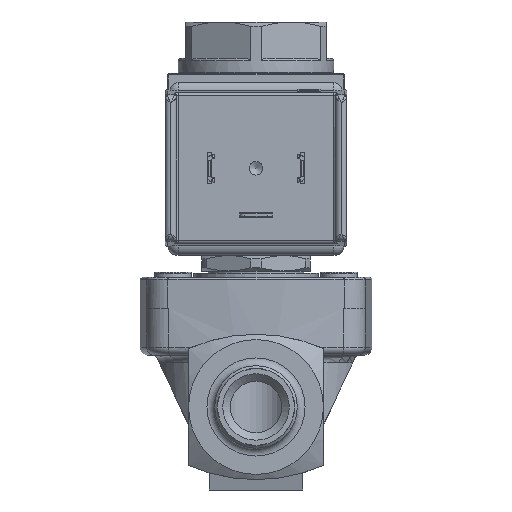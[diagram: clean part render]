
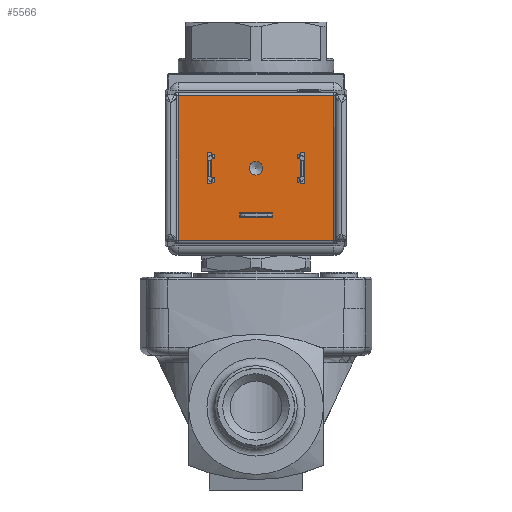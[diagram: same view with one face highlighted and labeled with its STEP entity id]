
A CAD part, front view. The second image highlights one B-rep face of the part: STEP entity #5566.
In plain terms, the highlighted planar face has unit normal (0, -1, 0).
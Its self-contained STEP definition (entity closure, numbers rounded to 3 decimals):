
#2508=PLANE('',#15133);
#3497=FACE_OUTER_BOUND('',#6963,.T.);
#4101=LINE('',#21539,#4774);
#4108=LINE('',#21554,#4781);
#4111=LINE('',#21562,#4784);
#4113=LINE('',#21565,#4786);
#4149=LINE('',#21664,#4822);
#4161=LINE('',#21688,#4834);
#4168=LINE('',#21703,#4841);
#4169=LINE('',#21705,#4842);
#4222=LINE('',#21845,#4895);
#4233=LINE('',#21866,#4906);
#4238=LINE('',#21879,#4911);
#4239=LINE('',#21881,#4912);
#4284=LINE('',#22066,#4957);
#4285=LINE('',#22069,#4958);
#4286=LINE('',#22071,#4959);
#4287=LINE('',#22073,#4960);
#4774=VECTOR('',#17020,1.);
#4781=VECTOR('',#17031,1.);
#4784=VECTOR('',#17038,1.);
#4786=VECTOR('',#17042,1.);
#4822=VECTOR('',#17142,1.);
#4834=VECTOR('',#17160,1.);
#4841=VECTOR('',#17179,1.);
#4842=VECTOR('',#17182,1.);
#4895=VECTOR('',#17319,1.);
#4906=VECTOR('',#17336,1.);
#4911=VECTOR('',#17353,1.);
#4912=VECTOR('',#17356,1.);
#4957=VECTOR('',#17495,1.);
#4958=VECTOR('',#17496,1.);
#4959=VECTOR('',#17497,1.);
#4960=VECTOR('',#17498,1.);
#5566=ADVANCED_FACE('',(#6338,#6339,#6340,#6341,#3497),#2508,.T.);
#6338=FACE_BOUND('',#6959,.T.);
#6339=FACE_BOUND('',#6960,.T.);
#6340=FACE_BOUND('',#6961,.T.);
#6341=FACE_BOUND('',#6962,.T.);
#6959=EDGE_LOOP('',(#8853,#8854,#8855,#8856));
#6960=EDGE_LOOP('',(#8857,#8858,#8859,#8860));
#6961=EDGE_LOOP('',(#8861,#8862,#8863,#8864));
#6962=EDGE_LOOP('',(#8865));
#6963=EDGE_LOOP('',(#8866,#8867,#8868,#8869));
#8853=ORIENTED_EDGE('',*,*,#12620,.T.);
#8854=ORIENTED_EDGE('',*,*,#12633,.F.);
#8855=ORIENTED_EDGE('',*,*,#12631,.T.);
#8856=ORIENTED_EDGE('',*,*,#12627,.T.);
#8857=ORIENTED_EDGE('',*,*,#12702,.T.);
#8858=ORIENTED_EDGE('',*,*,#12695,.T.);
#8859=ORIENTED_EDGE('',*,*,#12703,.F.);
#8860=ORIENTED_EDGE('',*,*,#12682,.F.);
#8861=ORIENTED_EDGE('',*,*,#12790,.F.);
#8862=ORIENTED_EDGE('',*,*,#12773,.T.);
#8863=ORIENTED_EDGE('',*,*,#12791,.T.);
#8864=ORIENTED_EDGE('',*,*,#12785,.F.);
#8865=ORIENTED_EDGE('',*,*,#12865,.T.);
#8866=ORIENTED_EDGE('',*,*,#12866,.T.);
#8867=ORIENTED_EDGE('',*,*,#12867,.T.);
#8868=ORIENTED_EDGE('',*,*,#12868,.T.);
#8869=ORIENTED_EDGE('',*,*,#12869,.T.);
#11372=VERTEX_POINT('',#21534);
#11374=VERTEX_POINT('',#21538);
#11379=VERTEX_POINT('',#21551);
#11383=VERTEX_POINT('',#21560);
#11414=VERTEX_POINT('',#21663);
#11415=VERTEX_POINT('',#21665);
#11423=VERTEX_POINT('',#21687);
#11424=VERTEX_POINT('',#21689);
#11470=VERTEX_POINT('',#21844);
#11471=VERTEX_POINT('',#21846);
#11477=VERTEX_POINT('',#21865);
#11478=VERTEX_POINT('',#21867);
#11540=VERTEX_POINT('',#22065);
#11541=VERTEX_POINT('',#22067);
#11542=VERTEX_POINT('',#22068);
#11543=VERTEX_POINT('',#22070);
#11544=VERTEX_POINT('',#22072);
#12620=EDGE_CURVE('',#11372,#11374,#4101,.T.);
#12627=EDGE_CURVE('',#11379,#11372,#4108,.T.);
#12631=EDGE_CURVE('',#11383,#11379,#4111,.T.);
#12633=EDGE_CURVE('',#11383,#11374,#4113,.T.);
#12682=EDGE_CURVE('',#11414,#11415,#4149,.T.);
#12695=EDGE_CURVE('',#11424,#11423,#4161,.T.);
#12702=EDGE_CURVE('',#11414,#11424,#4168,.T.);
#12703=EDGE_CURVE('',#11415,#11423,#4169,.T.);
#12773=EDGE_CURVE('',#11471,#11470,#4222,.T.);
#12785=EDGE_CURVE('',#11477,#11478,#4233,.T.);
#12790=EDGE_CURVE('',#11471,#11477,#4238,.T.);
#12791=EDGE_CURVE('',#11470,#11478,#4239,.T.);
#12865=EDGE_CURVE('',#11540,#11540,#14145,.T.);
#12866=EDGE_CURVE('',#11541,#11542,#4284,.T.);
#12867=EDGE_CURVE('',#11542,#11543,#4285,.T.);
#12868=EDGE_CURVE('',#11543,#11544,#4286,.T.);
#12869=EDGE_CURVE('',#11544,#11541,#4287,.T.);
#14145=CIRCLE('',#15132,1.297);
#15132=AXIS2_PLACEMENT_3D('',#22064,#17493,#17494);
#15133=AXIS2_PLACEMENT_3D('',#22074,#17499,#17500);
#17020=DIRECTION('',(1.,0.,0.));
#17031=DIRECTION('',(0.,0.,1.));
#17038=DIRECTION('',(-1.,0.,0.));
#17042=DIRECTION('',(0.,0.,1.));
#17142=DIRECTION('',(0.,0.,1.));
#17160=DIRECTION('',(0.,0.,1.));
#17179=DIRECTION('',(-1.,0.,0.));
#17182=DIRECTION('',(-1.,0.,0.));
#17319=DIRECTION('',(0.,0.,1.));
#17336=DIRECTION('',(0.,0.,1.));
#17353=DIRECTION('',(1.,0.,0.));
#17356=DIRECTION('',(1.,0.,0.));
#17493=DIRECTION('',(0.,1.,0.));
#17494=DIRECTION('',(0.,0.,1.));
#17495=DIRECTION('',(0.,0.,-1.));
#17496=DIRECTION('',(1.,0.,0.));
#17497=DIRECTION('',(0.,0.,1.));
#17498=DIRECTION('',(-1.,0.,0.));
#17499=DIRECTION('',(0.,-1.,0.));
#17500=DIRECTION('',(0.,0.,-1.));
#21534=CARTESIAN_POINT('',(-3.15,-23.5,37.4));
#21538=CARTESIAN_POINT('',(3.15,-23.5,37.4));
#21539=CARTESIAN_POINT('',(0.,-23.5,37.4));
#21551=CARTESIAN_POINT('',(-3.15,-23.5,36.6));
#21554=CARTESIAN_POINT('',(-3.15,-23.5,36.6));
#21560=CARTESIAN_POINT('',(3.15,-23.5,36.6));
#21562=CARTESIAN_POINT('',(0.,-23.5,36.6));
#21565=CARTESIAN_POINT('',(3.15,-23.5,36.6));
#21663=CARTESIAN_POINT('',(9.4,-23.5,43.));
#21664=CARTESIAN_POINT('',(9.4,-23.5,43.));
#21665=CARTESIAN_POINT('',(9.4,-23.5,49.));
#21687=CARTESIAN_POINT('',(8.6,-23.5,49.));
#21688=CARTESIAN_POINT('',(8.6,-23.5,43.));
#21689=CARTESIAN_POINT('',(8.6,-23.5,43.));
#21703=CARTESIAN_POINT('',(9.4,-23.5,43.));
#21705=CARTESIAN_POINT('',(9.4,-23.5,49.));
#21844=CARTESIAN_POINT('',(-9.4,-23.5,49.));
#21845=CARTESIAN_POINT('',(-9.4,-23.5,43.));
#21846=CARTESIAN_POINT('',(-9.4,-23.5,43.));
#21865=CARTESIAN_POINT('',(-8.6,-23.5,43.));
#21866=CARTESIAN_POINT('',(-8.6,-23.5,43.));
#21867=CARTESIAN_POINT('',(-8.6,-23.5,49.));
#21879=CARTESIAN_POINT('',(-9.4,-23.5,43.));
#21881=CARTESIAN_POINT('',(-9.4,-23.5,49.));
#22064=CARTESIAN_POINT('',(0.,-23.5,46.));
#22065=CARTESIAN_POINT('',(0.,-23.5,47.297));
#22066=CARTESIAN_POINT('',(-14.95,-23.5,32.05));
#22067=CARTESIAN_POINT('',(-14.95,-23.5,60.038));
#22068=CARTESIAN_POINT('',(-14.95,-23.5,32.062));
#22069=CARTESIAN_POINT('',(0.,-23.5,32.062));
#22070=CARTESIAN_POINT('',(14.95,-23.5,32.062));
#22071=CARTESIAN_POINT('',(14.95,-23.5,32.05));
#22072=CARTESIAN_POINT('',(14.95,-23.5,60.038));
#22073=CARTESIAN_POINT('',(0.,-23.5,60.038));
#22074=CARTESIAN_POINT('',(0.,-23.5,32.05));
